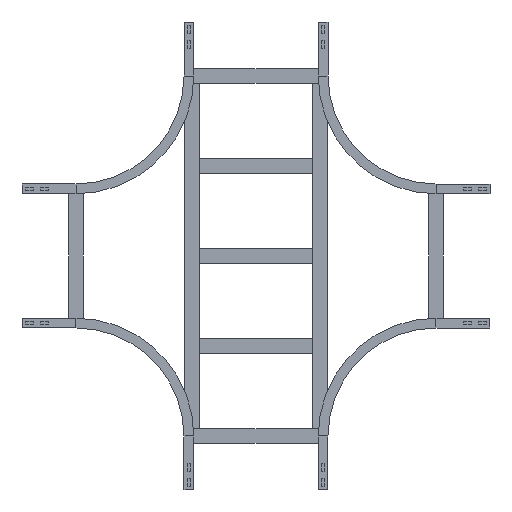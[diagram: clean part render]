
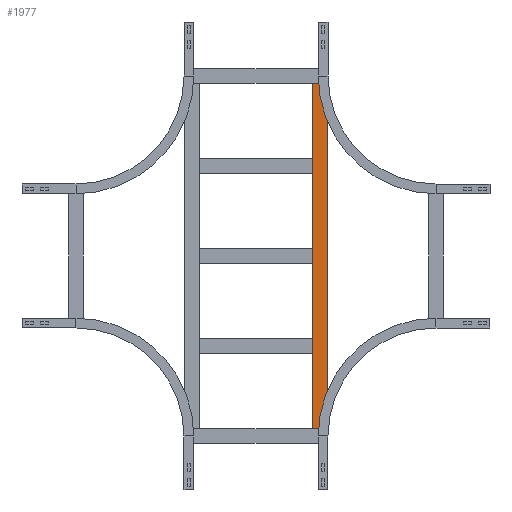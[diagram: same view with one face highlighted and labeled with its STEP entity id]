
A CAD part, front view. The second image highlights one B-rep face of the part: STEP entity #1977.
In plain terms, the highlighted planar face has unit normal (0, -1, 0).
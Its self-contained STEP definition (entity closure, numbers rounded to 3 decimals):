
#21 = VECTOR ( 'NONE', #314, 1000. ) ;
#114 = LINE ( 'NONE', #893, #1936 ) ;
#203 = DIRECTION ( 'NONE',  ( 0., 0., 1. ) ) ;
#209 = CARTESIAN_POINT ( 'NONE',  ( -479.75, 0., 20.25 ) ) ;
#314 = DIRECTION ( 'NONE',  ( -1., 0., 0. ) ) ;
#352 = CARTESIAN_POINT ( 'NONE',  ( -479.75, 0., -20.25 ) ) ;
#372 = LINE ( 'NONE', #209, #676 ) ;
#376 = FACE_OUTER_BOUND ( 'NONE', #2149, .T. ) ;
#401 = ORIENTED_EDGE ( 'NONE', *, *, #1640, .F. ) ;
#469 = CARTESIAN_POINT ( 'NONE',  ( 479.75, 0., -20.25 ) ) ;
#507 = CARTESIAN_POINT ( 'NONE',  ( 479.75, 0., 20.25 ) ) ;
#563 = EDGE_CURVE ( 'NONE', #1393, #1250, #1660, .T. ) ;
#676 = VECTOR ( 'NONE', #992, 1000. ) ;
#760 = AXIS2_PLACEMENT_3D ( 'NONE', #2359, #1166, #203 ) ;
#893 = CARTESIAN_POINT ( 'NONE',  ( 479.75, 0., 20.25 ) ) ;
#974 = PLANE ( 'NONE',  #760 ) ;
#992 = DIRECTION ( 'NONE',  ( 0., 0., -1. ) ) ;
#1017 = CARTESIAN_POINT ( 'NONE',  ( 479.75, 0., -20.25 ) ) ;
#1166 = DIRECTION ( 'NONE',  ( 0., 1., 0. ) ) ;
#1224 = CARTESIAN_POINT ( 'NONE',  ( -479.75, 0., 20.25 ) ) ;
#1250 = VERTEX_POINT ( 'NONE', #1224 ) ;
#1393 = VERTEX_POINT ( 'NONE', #1735 ) ;
#1408 = VERTEX_POINT ( 'NONE', #352 ) ;
#1458 = DIRECTION ( 'NONE',  ( 0., 0., -1. ) ) ;
#1565 = ORIENTED_EDGE ( 'NONE', *, *, #563, .T. ) ;
#1640 = EDGE_CURVE ( 'NONE', #1656, #1408, #1981, .T. ) ;
#1656 = VERTEX_POINT ( 'NONE', #469 ) ;
#1660 = LINE ( 'NONE', #507, #21 ) ;
#1735 = CARTESIAN_POINT ( 'NONE',  ( 479.75, 0., 20.25 ) ) ;
#1743 = EDGE_CURVE ( 'NONE', #1393, #1656, #114, .T. ) ;
#1786 = DIRECTION ( 'NONE',  ( -1., 0., 0. ) ) ;
#1792 = ORIENTED_EDGE ( 'NONE', *, *, #1743, .F. ) ;
#1936 = VECTOR ( 'NONE', #1458, 1000. ) ;
#1977 = ADVANCED_FACE ( 'NONE', ( #376 ), #974, .F. ) ;
#1981 = LINE ( 'NONE', #1017, #2282 ) ;
#2122 = ORIENTED_EDGE ( 'NONE', *, *, #2376, .T. ) ;
#2149 = EDGE_LOOP ( 'NONE', ( #2122, #401, #1792, #1565 ) ) ;
#2282 = VECTOR ( 'NONE', #1786, 1000. ) ;
#2359 = CARTESIAN_POINT ( 'NONE',  ( 479.75, 0., 20.25 ) ) ;
#2376 = EDGE_CURVE ( 'NONE', #1250, #1408, #372, .T. ) ;
